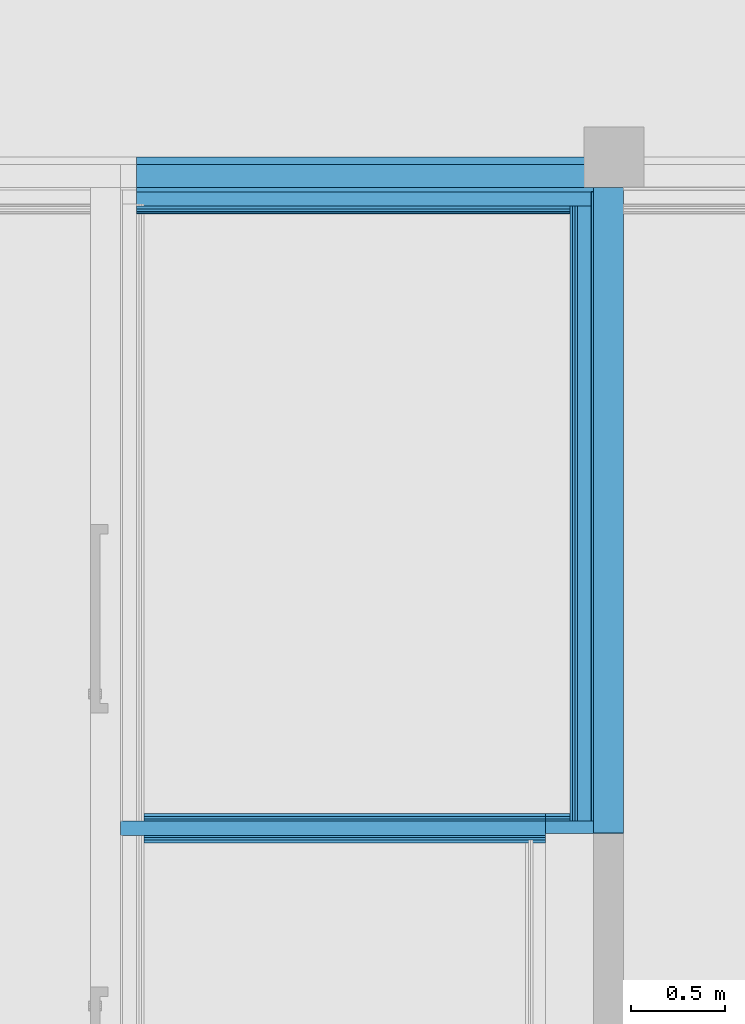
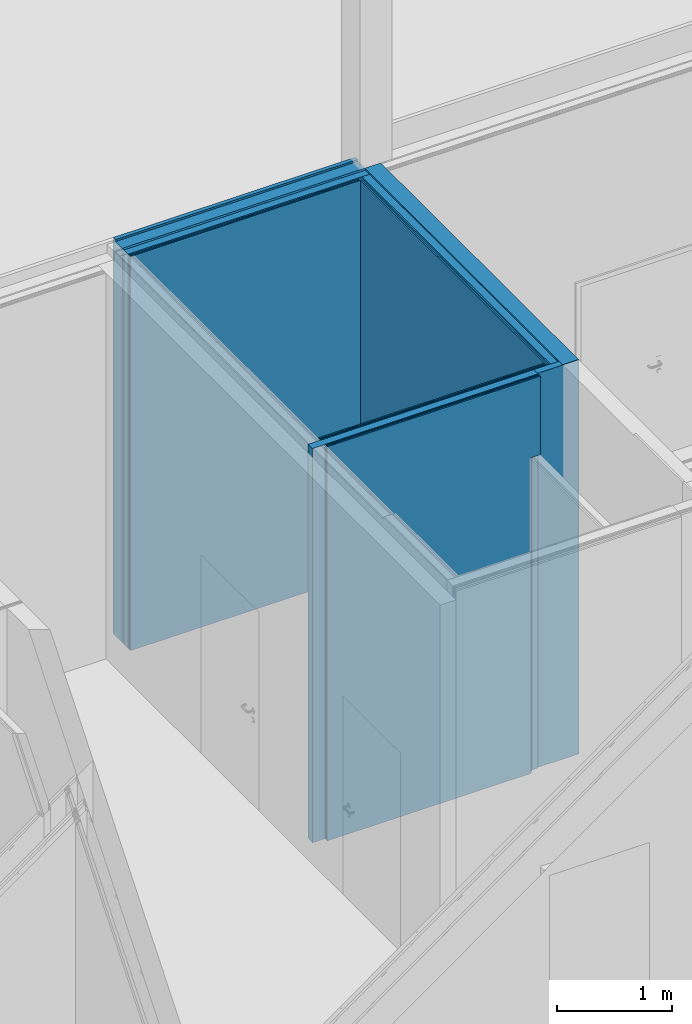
# One storey, part 228 of 260: 23 building element parts, 4 elements without a shape of their own.
"""IFC2X3 building model written with IfcOpenShell, lengths in millimetres."""

from ifc_helpers import new_model, entity, si_unit, converted_unit, derived_unit, money_unit, direction, frame, origin_with_axes, place, context, subcontext, project, spatial, faceted_brep, material, type_object, element, aggregate, save


model = new_model("IFC2X3")

# Units and contexts
model_context = context("Model", 3, precision=0.01, world=origin_with_axes(), true_north=direction((0.0, 1.0)))
body_context = subcontext(model_context, "Body", "Model", "MODEL_VIEW")
ifc_project = project(units=[si_unit("LENGTHUNIT", "METRE", prefix="MILLI"), si_unit("AREAUNIT", "SQUARE_METRE"), si_unit("VOLUMEUNIT", "CUBIC_METRE"), converted_unit("PLANEANGLEUNIT", "DEGREE", entity("IfcPlaneAngleMeasure", 0.0174532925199), si_unit("PLANEANGLEUNIT", "RADIAN"), dimensions=[0, 0, 0, 0, 0, 0, 0]), money_unit("EUR"), converted_unit("TIMEUNIT", "Year", entity("IfcTimeMeasure", 31556926.0), si_unit("TIMEUNIT", "SECOND"), dimensions=[0, 0, 1, 0, 0, 0, 0]), si_unit("MASSUNIT", "GRAM", prefix="KILO"), si_unit("THERMODYNAMICTEMPERATUREUNIT", "DEGREE_CELSIUS"), si_unit("LUMINOUSINTENSITYUNIT", "LUMEN"), si_unit("ENERGYUNIT", "JOULE", prefix="MEGA"), derived_unit("THERMALCONDUCTANCEUNIT", [(si_unit("POWERUNIT", "WATT"), 1), (si_unit("LENGTHUNIT", "METRE"), -1), (si_unit("THERMODYNAMICTEMPERATUREUNIT", "KELVIN"), -1)]), derived_unit("SPECIFICHEATCAPACITYUNIT", [(si_unit("ENERGYUNIT", "JOULE"), 1), (si_unit("MASSUNIT", "GRAM", prefix="KILO"), -1), (si_unit("THERMODYNAMICTEMPERATUREUNIT", "KELVIN"), -1)]), derived_unit("MASSDENSITYUNIT", [(si_unit("MASSUNIT", "GRAM", prefix="KILO"), 1), (si_unit("VOLUMEUNIT", "CUBIC_METRE"), -1)])], contexts=[model_context])

# Site, building, storey
site_placement = place(None, origin_with_axes())
site = spatial("IfcSite", under=ifc_project, at=site_placement, Name="Kolde pst 67a", CompositionType="ELEMENT")
building_placement = place(site_placement, origin_with_axes())
building = spatial("IfcBuilding", under=site, at=building_placement, Name="Riigigümnaasium", CompositionType="ELEMENT")
storey_placement = place(building_placement, origin_with_axes())
storey = spatial("IfcBuildingStorey", under=building, at=storey_placement, Name="1. korrus", CompositionType="ELEMENT", Elevation=0.0)

# Wall, building element parts
wall_type_1 = type_object("IfcWallType", Name="SS-CLT-16/4_1xplaaditud 285", PredefinedType="NOTDEFINED")
wall_1_placement = place(storey_placement, frame((26869.9992295, 67089.9971514, 0.0), z_axis=(0.0, 0.0, 1.0), x_axis=(0.0, -1.0, 0.0)))
wall_1 = element("IfcWall", 1, at=wall_1_placement, inside=storey, type_object=wall_type_1, Name="Sisesein")
ifc_material_1 = material(Name="_KANDETARIND - CLT ristkihtliimpuit vastavalt EK osale, CLT paigaldusvuugid teibitakse ROTHOBLAAS teibiga")
building_element_part_1_placement = place(wall_1_placement, origin_with_axes())
building_element_part_1 = element("IfcBuildingElementPart", 2, at=building_element_part_1_placement, material=ifc_material_1, Name="_KANDETARIND - CLT ristkihtliimpuit vastavalt EK osale, CLT paigaldusvuugid teibitakse ROTHOBLAAS teibiga", context=body_context, shape_type="Brep", body=[
    faceted_brep([(0.0163174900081, 0.0, 0.0), (0.0163174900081, 0.0, 4170.0), (3427.98388579, 0.0, 4170.0), (3427.98388579, 0.0, 0.0), (0.0163174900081, -160.0, 4170.0), (0.0163174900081, -160.0, 0.0), (3427.98388579, -160.0, 4170.0), (3427.98388579, -160.0, 0.0)], [[[0, 1, 2, 3]], [[4, 1, 0, 5]], [[1, 4, 6, 2]], [[3, 2, 6, 7]], [[5, 0, 3, 7]], [[4, 5, 7, 6]]]),
])
ifc_material_2 = material(Name="_ÕHKVAHE")
building_element_part_2_placement = place(wall_1_placement, origin_with_axes())
building_element_part_2 = element("IfcBuildingElementPart", 3, at=building_element_part_2_placement, material=ifc_material_2, Name="_ÕHKVAHE", context=body_context, shape_type="Brep", body=[
    faceted_brep([(25.0, -170.0, 4170.0), (25.0, -160.0, 4170.0), (25.0, -160.0, 0.0), (25.0, -170.0, 0.0), (3365.48388579, -160.0, 4170.0), (3365.48388579, -170.0, 4170.0), (3365.48388579, -160.0, 0.0), (3365.48388579, -170.0, 0.0)], [[[0, 1, 2, 3]], [[4, 1, 0, 5]], [[1, 4, 6, 2]], [[6, 7, 3, 2]], [[5, 0, 3, 7]], [[4, 5, 7, 6]]]),
])
ifc_material_3 = material(Name="_KARKASS - metallkarkass CW 75/50/06 ja UW 75/40/06, samm 600")
building_element_part_3_placement = place(wall_1_placement, origin_with_axes())
building_element_part_3 = element("IfcBuildingElementPart", 4, at=building_element_part_3_placement, material=ifc_material_3, Name="_KARKASS - metallkarkass CW 75/50/06 ja UW 75/40/06, samm 600", context=body_context, shape_type="Brep", body=[
    faceted_brep([(100.0, -245.0, 4170.0), (100.0, -170.0, 4170.0), (100.0, -170.0, 0.0), (100.0, -245.0, 0.0), (3365.48388579, -170.0, 4170.0), (3365.48388579, -245.0, 4170.0), (3365.48388579, -170.0, 0.0), (3365.48388579, -245.0, 0.0)], [[[0, 1, 2, 3]], [[4, 1, 0, 5]], [[1, 4, 6, 2]], [[6, 7, 3, 2]], [[5, 0, 3, 7]], [[4, 5, 7, 6]]]),
])
ifc_material_4 = material(Name="_PLAATMATERJAL - kipsplaat veekindel")
building_element_part_4_placement = place(wall_1_placement, origin_with_axes())
building_element_part_4 = element("IfcBuildingElementPart", 5, at=building_element_part_4_placement, material=ifc_material_4, Name="_PLAATMATERJAL - kipsplaat veekindel", context=body_context, shape_type="Brep", body=[
    faceted_brep([(100.0, -257.5, 4170.0), (100.0, -245.0, 4170.0), (100.0, -245.0, 0.0), (100.0, -257.5, 0.0), (3365.48388579, -245.0, 4170.0), (3365.48388579, -257.5, 4170.0), (3365.48388579, -245.0, 0.0), (3365.48388579, -257.5, 0.0)], [[[0, 1, 2, 3]], [[4, 1, 0, 5]], [[1, 4, 6, 2]], [[6, 7, 3, 2]], [[5, 0, 3, 7]], [[4, 5, 7, 6]]]),
])
building_element_part_5_placement = place(wall_1_placement, origin_with_axes())
building_element_part_5 = element("IfcBuildingElementPart", 6, at=building_element_part_5_placement, material=ifc_material_4, Name="_PLAATMATERJAL - kipsplaat veekindel", context=body_context, shape_type="Brep", body=[
    faceted_brep([(100.0, -270.0, 4170.0), (100.0, -257.5, 4170.0), (100.0, -257.5, 0.0), (100.0, -270.0, 0.0), (3365.48388579, -257.5, 4170.0), (3365.48388579, -270.0, 4170.0), (3365.48388579, -257.5, 0.0), (3365.48388579, -270.0, 0.0)], [[[0, 1, 2, 3]], [[4, 1, 0, 5]], [[1, 4, 6, 2]], [[6, 7, 3, 2]], [[5, 0, 3, 7]], [[4, 5, 7, 6]]]),
])
ifc_material_5 = material(Name="_VIIMISTLUSKIHT - keraamiline plaat sein")
building_element_part_6_placement = place(wall_1_placement, origin_with_axes())
building_element_part_6 = element("IfcBuildingElementPart", 7, at=building_element_part_6_placement, material=ifc_material_5, Name="_VIIMISTLUSKIHT - keraamiline plaat sein", context=body_context, shape_type="Brep", body=[
    faceted_brep([(100.0, -285.0, 4170.0), (100.0, -270.0, 4170.0), (100.0, -270.0, 0.0), (100.0, -285.0, 0.0), (3365.48388579, -270.0, 4170.0), (3365.48388579, -285.0, 4170.0), (3365.48388579, -270.0, 0.0), (3365.48388579, -285.0, 0.0)], [[[0, 1, 2, 3]], [[4, 1, 0, 5]], [[1, 4, 6, 2]], [[6, 7, 3, 2]], [[5, 0, 3, 7]], [[4, 5, 7, 6]]]),
])
aggregate(wall_1, [building_element_part_1, building_element_part_2, building_element_part_3, building_element_part_4, building_element_part_5, building_element_part_6])

wall_type_2 = type_object("IfcWallType", Name="SS-MK-66/3_šahti sein+plaat 106", PredefinedType="NOTDEFINED")
wall_2_placement = place(storey_placement, frame((26869.99923, 63764.5132656, 0.0), z_axis=(0.0, 0.0, 1.0), x_axis=(-1.0, 0.0, 0.0)))
wall_2 = element("IfcWall", 8, at=wall_2_placement, inside=storey, type_object=wall_type_2, Name="Sisesein")
ifc_material_6 = material(Name="_KARKASS - metallkarkass CW 75/50, mineraalvill karkassi vahel")
building_element_part_7_placement = place(wall_2_placement, origin_with_axes())
building_element_part_7 = element("IfcBuildingElementPart", 9, at=building_element_part_7_placement, material=ifc_material_6, Name="_KARKASS - metallkarkass CW 75/50, mineraalvill karkassi vahel", context=body_context, shape_type="Brep", body=[
    faceted_brep([(160.00000047, 102.5, 4170.0), (4.70489425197e-07, 102.5, 4170.0), (4.70489425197e-07, 102.5, 0.0), (160.00000047, 102.5, 0.0), (-8.31086310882e-08, 106.0, 4170.0), (160.00000047, 40.0, 4170.0), (414.0, 40.0, 4170.0), (414.0, 106.0, 4170.0), (-1.74109224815e-05, 106.0, 0.0), (160.00000047, 40.0, 0.0), (414.0, 106.0, 0.0), (414.0, 40.0, 0.0)], [[[0, 1, 2, 3]], [[4, 1, 0, 5, 6, 7]], [[1, 4, 8, 2]], [[9, 3, 2, 8, 10, 11]], [[5, 0, 3, 9]], [[6, 5, 9, 11]], [[7, 6, 11, 10]], [[4, 7, 10, 8]]]),
])
building_element_part_8_placement = place(wall_2_placement, origin_with_axes())
building_element_part_8 = element("IfcBuildingElementPart", 10, at=building_element_part_8_placement, material=ifc_material_4, Name="_PLAATMATERJAL - kipsplaat veekindel", context=body_context, shape_type="Brep", body=[
    faceted_brep([(414.0, 27.5, 4170.0), (285.00000047, 27.5, 4170.0), (285.00000047, 27.5, 0.0), (414.0, 27.5, 0.0), (285.00000047, 40.0, 4170.0), (414.0, 40.0, 4170.0), (285.00000047, 40.0, 0.0), (414.0, 40.0, 0.0)], [[[0, 1, 2, 3]], [[4, 1, 0, 5]], [[1, 4, 6, 2]], [[3, 2, 6, 7]], [[5, 0, 3, 7]], [[4, 5, 7, 6]]]),
])
building_element_part_9_placement = place(wall_2_placement, origin_with_axes())
building_element_part_9 = element("IfcBuildingElementPart", 11, at=building_element_part_9_placement, material=ifc_material_4, Name="_PLAATMATERJAL - kipsplaat veekindel", context=body_context, shape_type="Brep", body=[
    faceted_brep([(414.0, 15.0, 4170.0), (285.00000047, 15.0, 4170.0), (285.00000047, 15.0, 0.0), (414.0, 15.0, 0.0), (285.00000047, 27.5, 4170.0), (414.0, 27.5, 4170.0), (285.00000047, 27.5, 0.0), (414.0, 27.5, 0.0)], [[[0, 1, 2, 3]], [[4, 1, 0, 5]], [[1, 4, 6, 2]], [[3, 2, 6, 7]], [[5, 0, 3, 7]], [[4, 5, 7, 6]]]),
])
ifc_material_7 = material(Name="_VIIMISTLUSKIHT - viimistlus vastavalt SA osale")
building_element_part_10_placement = place(wall_2_placement, origin_with_axes())
building_element_part_10 = element("IfcBuildingElementPart", 12, at=building_element_part_10_placement, material=ifc_material_7, Name="_VIIMISTLUSKIHT - viimistlus vastavalt SA osale", context=body_context, shape_type="Brep", body=[
    faceted_brep([(414.0, 0.0, 4170.0), (285.00000047, 0.0, 4170.0), (285.00000047, 0.0, 0.0), (414.0, 0.0, 0.0), (285.00000047, 15.0, 4170.0), (414.0, 15.0, 4170.0), (285.00000047, 15.0, 0.0), (414.0, 15.0, 0.0)], [[[0, 1, 2, 3]], [[4, 1, 0, 5]], [[1, 4, 6, 2]], [[3, 2, 6, 7]], [[5, 0, 3, 7]], [[4, 5, 7, 6]]]),
])
aggregate(wall_2, [building_element_part_7, building_element_part_8, building_element_part_9, building_element_part_10])

wall_type_3 = type_object("IfcWallType", Name="SS-MK-7,5/1_plaaditud 155", PredefinedType="NOTDEFINED")
wall_3_placement = place(storey_placement, frame((26455.99923, 63764.5132656, 0.0), z_axis=(0.0, 0.0, 1.0), x_axis=(-1.0, 0.0, 0.0)))
wall_3 = element("IfcWall", 13, at=wall_3_placement, inside=storey, type_object=wall_type_3, Name="Sisesein")
building_element_part_11_placement = place(wall_3_placement, origin_with_axes())
building_element_part_11 = element("IfcBuildingElementPart", 14, at=building_element_part_11_placement, material=ifc_material_7, Name="_VIIMISTLUSKIHT - viimistlus vastavalt SA osale", context=body_context, shape_type="Brep", body=[
    faceted_brep([(2130.99649583, 139.999999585, 4170.0), (0.0, 140.0, 4170.0), (0.0, 140.0, 3340.0), (91.0, 139.999999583, 3340.0), (91.0, 140.0, 0.0), (2130.99649583, 140.0, 0.0), (0.0, 155.0, 4170.0), (2130.99649583, 155.00000089, 4170.0), (0.0, 155.0, 3340.0), (91.0, 155.000000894, 3340.0), (91.0, 155.0, 0.0), (2130.99649583, 155.0, 0.0)], [[[0, 1, 2, 3, 4, 5]], [[6, 1, 0, 7]], [[1, 6, 8, 2]], [[2, 8, 9, 3]], [[10, 4, 3, 9]], [[5, 4, 10, 11]], [[7, 0, 5, 11]], [[6, 7, 11, 10, 9, 8]]]),
])
building_element_part_12_placement = place(wall_3_placement, origin_with_axes())
building_element_part_12 = element("IfcBuildingElementPart", 15, at=building_element_part_12_placement, material=ifc_material_4, Name="_PLAATMATERJAL - kipsplaat veekindel", context=body_context, shape_type="Brep", body=[
    faceted_brep([(2130.99649583, 127.5, 4170.0), (0.0, 127.5, 4170.0), (0.0, 127.5, 3340.0), (78.5, 127.5, 3340.0), (78.5, 127.5, 0.0), (2130.99649583, 127.5, 0.0), (0.0, 140.0, 4170.0), (2130.99649583, 139.999999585, 4170.0), (0.0, 140.0, 3340.0), (78.5, 139.999999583, 3340.0), (78.5, 140.0, 0.0), (2130.99649583, 140.0, 0.0)], [[[0, 1, 2, 3, 4, 5]], [[6, 1, 0, 7]], [[1, 6, 8, 2]], [[2, 8, 9, 3]], [[10, 4, 3, 9]], [[5, 4, 10, 11]], [[7, 0, 5, 11]], [[6, 7, 11, 10, 9, 8]]]),
])
building_element_part_13_placement = place(wall_3_placement, origin_with_axes())
building_element_part_13 = element("IfcBuildingElementPart", 16, at=building_element_part_13_placement, material=ifc_material_4, Name="_PLAATMATERJAL - kipsplaat veekindel", context=body_context, shape_type="Brep", body=[
    faceted_brep([(2130.99649583, 114.999999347, 4170.0), (0.0, 115.0, 4170.0), (0.0, 115.0, 3340.0), (66.0, 114.999999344, 3340.0), (66.0, 115.0, 0.0), (2130.99649583, 115.0, 0.0), (0.0, 127.5, 4170.0), (2130.99649583, 127.5, 4170.0), (0.0, 127.5, 3340.0), (66.0, 127.5, 3340.0), (66.0, 127.5, 0.0), (2130.99649583, 127.5, 0.0)], [[[0, 1, 2, 3, 4, 5]], [[6, 1, 0, 7]], [[1, 6, 8, 2]], [[9, 3, 2, 8]], [[10, 4, 3, 9]], [[5, 4, 10, 11]], [[7, 0, 5, 11]], [[6, 7, 11, 10, 9, 8]]]),
])
building_element_part_14_placement = place(wall_3_placement, origin_with_axes())
building_element_part_14 = element("IfcBuildingElementPart", 17, at=building_element_part_14_placement, material=ifc_material_6, Name="_KARKASS - metallkarkass CW 75/50, mineraalvill karkassi vahel", context=body_context, shape_type="Brep", body=[
    faceted_brep([(2255.99649583, 39.9999986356, 4170.0), (0.0, 40.0, 4170.0), (0.0, 40.0, 0.0), (2255.99649583, 40.0, 0.0), (0.0, 115.0, 4170.0), (2255.99649583, 114.999999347, 4170.0), (0.0, 115.0, 0.0), (2255.99649583, 115.0, 0.0)], [[[0, 1, 2, 3]], [[4, 1, 0, 5]], [[1, 4, 6, 2]], [[6, 7, 3, 2]], [[5, 0, 3, 7]], [[4, 5, 7, 6]]]),
])
building_element_part_15_placement = place(wall_3_placement, origin_with_axes())
building_element_part_15 = element("IfcBuildingElementPart", 18, at=building_element_part_15_placement, material=ifc_material_4, Name="_PLAATMATERJAL - kipsplaat veekindel", context=body_context, shape_type="Brep", body=[
    faceted_brep([(2130.99649583, 27.5, 4170.0), (0.0, 27.5, 4170.0), (0.0, 27.5, 0.0), (2130.99649583, 27.5, 0.0), (0.0, 40.0, 4170.0), (2130.99649583, 39.9999986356, 4170.0), (0.0, 40.0, 0.0), (2130.99649583, 40.0, 0.0)], [[[0, 1, 2, 3]], [[4, 1, 0, 5]], [[1, 4, 6, 2]], [[6, 7, 3, 2]], [[5, 0, 3, 7]], [[4, 5, 7, 6]]]),
])
building_element_part_16_placement = place(wall_3_placement, origin_with_axes())
building_element_part_16 = element("IfcBuildingElementPart", 19, at=building_element_part_16_placement, material=ifc_material_4, Name="_PLAATMATERJAL - kipsplaat veekindel", context=body_context, shape_type="Brep", body=[
    faceted_brep([(2130.99649583, 15.000001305, 4170.0), (0.0, 15.0, 4170.0), (0.0, 15.0, 0.0), (2130.99649583, 15.0, 0.0), (0.0, 27.5, 4170.0), (2130.99649583, 27.5, 4170.0), (0.0, 27.5, 0.0), (2130.99649583, 27.5, 0.0)], [[[0, 1, 2, 3]], [[4, 1, 0, 5]], [[1, 4, 6, 2]], [[6, 7, 3, 2]], [[5, 0, 3, 7]], [[4, 5, 7, 6]]]),
])
building_element_part_17_placement = place(wall_3_placement, origin_with_axes())
building_element_part_17 = element("IfcBuildingElementPart", 20, at=building_element_part_17_placement, material=ifc_material_7, Name="_VIIMISTLUSKIHT - viimistlus vastavalt SA osale", context=body_context, shape_type="Brep", body=[
    faceted_brep([(2130.99649583, 0.0, 4170.0), (0.0, 0.0, 4170.0), (0.0, 0.0, 0.0), (2130.99649583, 0.0, 0.0), (0.0, 15.0, 4170.0), (2130.99649583, 15.000001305, 4170.0), (0.0, 15.0, 0.0), (2130.99649583, 15.0, 0.0)], [[[0, 1, 2, 3]], [[4, 1, 0, 5]], [[1, 4, 6, 2]], [[6, 7, 3, 2]], [[5, 0, 3, 7]], [[4, 5, 7, 6]]]),
])
aggregate(wall_3, [building_element_part_11, building_element_part_12, building_element_part_13, building_element_part_14, building_element_part_15, building_element_part_16, building_element_part_17])

wall_type_4 = type_object("IfcWallType", Name="SS-CLT-16/2_vill75 +plaat 300", PredefinedType="NOTDEFINED")
wall_4_placement = place(storey_placement, frame((24285.0027694, 67089.9971514, 0.0), z_axis=(0.0, 0.0, 1.0), x_axis=(1.0, 0.0, 0.0)))
wall_4 = element("IfcWall", 21, at=wall_4_placement, inside=storey, type_object=wall_type_4, Name="Sisesein")
building_element_part_18_placement = place(wall_4_placement, origin_with_axes())
building_element_part_18 = element("IfcBuildingElementPart", 22, at=building_element_part_18_placement, material=ifc_material_1, Name="_KANDETARIND - CLT ristkihtliimpuit vastavalt EK osale, CLT paigaldusvuugid teibitakse ROTHOBLAAS teibiga", context=body_context, shape_type="Brep", body=[
    faceted_brep([(0.0, 119.994576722, 4190.0), (2424.99646013, 119.994570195, 4190.0), (2424.99646013, 160.0, 4190.0), (0.0, 160.0, 4190.0), (2424.99646013, 119.996186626, 4170.0), (0.0, 119.996596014, 4170.0), (2424.99646013, 0.0, 4170.0), (2424.99646013, 0.0, 0.0), (2424.99646013, 160.0, 0.0), (0.0, 160.0, 0.0), (0.0, 0.0, 0.0), (0.0, 0.0, 4170.0)], [[[0, 1, 2, 3]], [[4, 1, 0, 5]], [[4, 6, 7, 8, 2, 1]], [[2, 8, 9, 3]], [[5, 0, 3, 9, 10, 11]], [[6, 4, 5, 11]], [[6, 11, 10, 7]], [[8, 7, 10, 9]]]),
])
building_element_part_19_placement = place(wall_4_placement, origin_with_axes())
building_element_part_19 = element("IfcBuildingElementPart", 23, at=building_element_part_19_placement, material=ifc_material_2, Name="_ÕHKVAHE", context=body_context, shape_type="Brep", body=[
    faceted_brep([(0.0, 0.0, 4170.0), (2424.99646013, 0.0, 4170.0), (2424.99646013, 0.0, 0.0), (0.0, 0.0, 0.0), (2424.99646013, -25.0, 4170.0), (0.0, -25.0, 4170.0), (2424.99646013, -25.0, 0.0), (0.0, -25.0, 0.0)], [[[0, 1, 2, 3]], [[4, 1, 0, 5]], [[1, 4, 6, 2]], [[2, 6, 7, 3]], [[5, 0, 3, 7]], [[4, 5, 7, 6]]]),
])
ifc_material_8 = material(Name="_KARKASS - metallkarkass CW 75/50/06 ja UW 75/40/06, samm 600, vahel mineraalvill, helineeldetegur αw = 1.0,  ISOVER ACOUSTIC 75mm või samaväärne")
building_element_part_20_placement = place(wall_4_placement, origin_with_axes())
building_element_part_20 = element("IfcBuildingElementPart", 24, at=building_element_part_20_placement, material=ifc_material_8, Name="_KARKASS - metallkarkass CW 75/50/06 ja UW 75/40/06, samm 600, vahel mineraalvill, helineeldetegur αw = 1.0,  ISOVER ACOUSTIC 75mm või samaväärne", context=body_context, shape_type="Brep", body=[
    faceted_brep([(0.0, -25.0, 4170.0), (2414.99646013, -25.0, 4170.0), (2414.99646013, -25.0, 0.0), (0.0, -25.0, 0.0), (2414.99646013, -100.0, 4170.0), (0.0, -100.0, 4170.0), (2414.99646013, -100.0, 0.0), (0.0, -100.0, 0.0)], [[[0, 1, 2, 3]], [[4, 1, 0, 5]], [[1, 4, 6, 2]], [[2, 6, 7, 3]], [[5, 0, 3, 7]], [[4, 5, 7, 6]]]),
])
ifc_material_9 = material(Name="_PLAATMATERJAL - tuletõkkekipsplaat, Knauf Red GKF või samaväärne")
building_element_part_21_placement = place(wall_4_placement, origin_with_axes())
building_element_part_21 = element("IfcBuildingElementPart", 25, at=building_element_part_21_placement, material=ifc_material_9, Name="_PLAATMATERJAL - tuletõkkekipsplaat, Knauf Red GKF või samaväärne", context=body_context, shape_type="Brep", body=[
    faceted_brep([(0.0, -100.0, 4170.0), (2299.99646013, -100.0, 4170.0), (2299.99646013, -100.0, 0.0), (0.0, -100.0, 0.0), (2299.99646013, -115.0, 4170.0), (0.0, -115.0, 4170.0), (2299.99646013, -115.0, 0.0), (0.0, -115.0, 0.0)], [[[0, 1, 2, 3]], [[4, 1, 0, 5]], [[1, 4, 6, 2]], [[2, 6, 7, 3]], [[5, 0, 3, 7]], [[4, 5, 7, 6]]]),
])
building_element_part_22_placement = place(wall_4_placement, origin_with_axes())
building_element_part_22 = element("IfcBuildingElementPart", 26, at=building_element_part_22_placement, material=ifc_material_9, Name="_PLAATMATERJAL - tuletõkkekipsplaat, Knauf Red GKF või samaväärne", context=body_context, shape_type="Brep", body=[
    faceted_brep([(0.0, -115.0, 4170.0), (2299.99646013, -115.0, 4170.0), (2299.99646013, -115.0, 0.0), (0.0, -115.0, 0.0), (2299.99646013, -130.0, 4170.0), (0.0, -130.0, 4170.0), (2299.99646013, -130.0, 0.0), (0.0, -130.0, 0.0)], [[[0, 1, 2, 3]], [[4, 1, 0, 5]], [[1, 4, 6, 2]], [[2, 6, 7, 3]], [[5, 0, 3, 7]], [[4, 5, 7, 6]]]),
])
building_element_part_23_placement = place(wall_4_placement, origin_with_axes())
building_element_part_23 = element("IfcBuildingElementPart", 27, at=building_element_part_23_placement, material=ifc_material_7, Name="_VIIMISTLUSKIHT - viimistlus vastavalt SA osale", context=body_context, shape_type="Brep", body=[
    faceted_brep([(0.0, -130.0, 4170.0), (2299.99646013, -130.0, 4170.0), (2299.99646013, -130.0, 0.0), (0.0, -130.0, 0.0), (2299.99646013, -140.0, 4170.0), (0.0, -140.0, 4170.0), (2299.99646013, -140.0, 0.0), (0.0, -140.0, 0.0)], [[[0, 1, 2, 3]], [[4, 1, 0, 5]], [[1, 4, 6, 2]], [[2, 6, 7, 3]], [[5, 0, 3, 7]], [[4, 5, 7, 6]]]),
])
aggregate(wall_4, [building_element_part_18, building_element_part_19, building_element_part_20, building_element_part_21, building_element_part_22, building_element_part_23])

save(model, "model.ifc")
